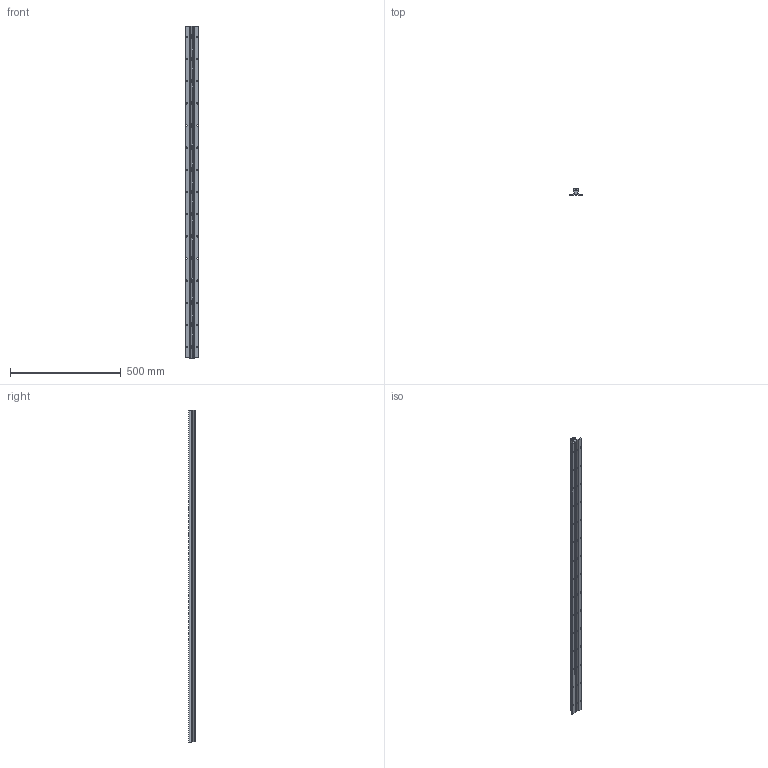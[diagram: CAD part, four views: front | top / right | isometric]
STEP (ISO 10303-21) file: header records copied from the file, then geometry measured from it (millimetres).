
FILE_DESCRIPTION (( 'STEP AP203' ), '1' );
FILE_NAME ('LF 2_-_LF 2 1498 mm lang.step', '2005-06-03T06:15:34', ( ' ' ), ( ' ' ), 'SwSTEP 2.0', 'SolidWorks 2004231', '' );
FILE_SCHEMA (( 'CONFIG_CONTROL_DESIGN' ));
Length unit declared in the file: millimetre
Products named in the file (1): LF 2_-_LF 2  1498 mm lang
Bounding box: 62 x 31 x 1498 mm (x, y, z)
Volume: 1042351.5 mm3; surface area: 338647.4 mm2
Topology: 1 solids, 1 shells, 791 faces, 2068 edges, 1248 vertices
Faces by surface type: cylinder 400, plane 271, cone 60, torus 60
Entity records: 24431 total; most frequent: CARTESIAN_POINT 6448, ORIENTED_EDGE 4016, DIRECTION 3436, EDGE_CURVE 2008, VERTEX_POINT 1248, AXIS2_PLACEMENT_3D 1236, LINE 964, VECTOR 964
